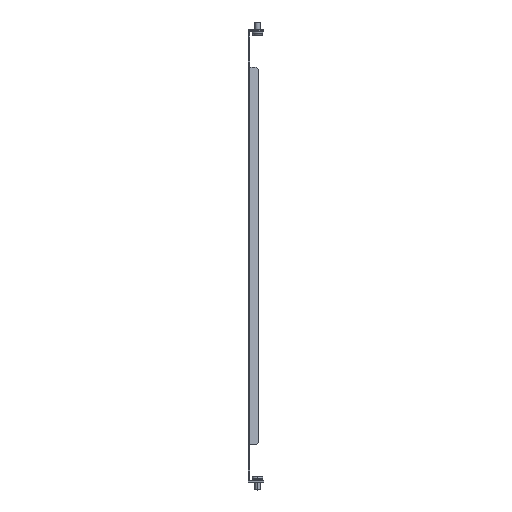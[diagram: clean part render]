
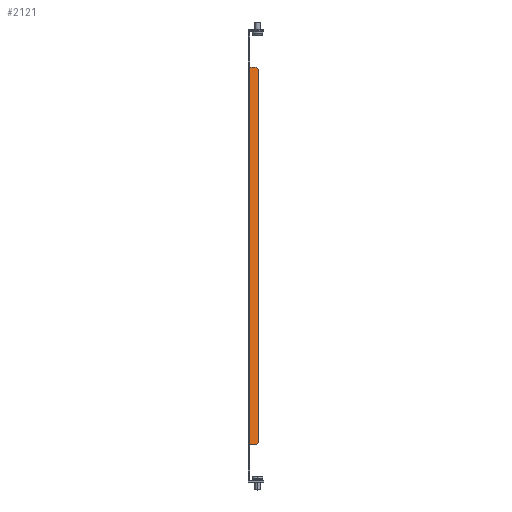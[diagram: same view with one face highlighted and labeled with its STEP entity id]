
A CAD part, top view. The second image highlights one B-rep face of the part: STEP entity #2121.
In plain terms, the highlighted planar face has unit normal (0.5, 0, 0.866).
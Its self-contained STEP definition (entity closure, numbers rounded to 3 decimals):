
#56 = VERTEX_POINT ( 'NONE', #10723 ) ;
#228 = ORIENTED_EDGE ( 'NONE', *, *, #6264, .F. ) ;
#251 = VERTEX_POINT ( 'NONE', #10399 ) ;
#266 = LINE ( 'NONE', #4899, #1419 ) ;
#288 = LINE ( 'NONE', #6215, #9762 ) ;
#335 = DIRECTION ( 'NONE',  ( -0.612, 0.707, 0.354 ) ) ;
#374 = CARTESIAN_POINT ( 'NONE',  ( 1.268, 0., 149.464 ) ) ;
#507 = DIRECTION ( 'NONE',  ( 0.612, 0.707, -0.354 ) ) ;
#849 = ORIENTED_EDGE ( 'NONE', *, *, #7235, .T. ) ;
#1419 = VECTOR ( 'NONE', #2614, 1000. ) ;
#1678 = DIRECTION ( 'NONE',  ( -0.866, 0., 0.5 ) ) ;
#2012 = CARTESIAN_POINT ( 'NONE',  ( 2.25, -210.75, 148.897 ) ) ;
#2015 = VERTEX_POINT ( 'NONE', #11507 ) ;
#2121 = ADVANCED_FACE ( 'NONE', ( #6395 ), #14421, .F. ) ;
#2420 = VECTOR ( 'NONE', #2836, 1000. ) ;
#2614 = DIRECTION ( 'NONE',  ( 0.866, 0., -0.5 ) ) ;
#2637 = VERTEX_POINT ( 'NONE', #4084 ) ;
#2768 = CARTESIAN_POINT ( 'NONE',  ( 63.912, -210.75, 113.297 ) ) ;
#2836 = DIRECTION ( 'NONE',  ( -0.866, 0., 0.5 ) ) ;
#2980 = LINE ( 'NONE', #14655, #10362 ) ;
#3723 = EDGE_CURVE ( 'NONE', #9252, #2015, #2980, .T. ) ;
#3890 = ORIENTED_EDGE ( 'NONE', *, *, #9575, .T. ) ;
#4084 = CARTESIAN_POINT ( 'NONE',  ( 11.401, -207.75, 143.614 ) ) ;
#4442 = LINE ( 'NONE', #2012, #8089 ) ;
#4509 = DIRECTION ( 'NONE',  ( -0.866, 0., 0.5 ) ) ;
#4899 = CARTESIAN_POINT ( 'NONE',  ( 11.401, 210.75, 143.614 ) ) ;
#4963 = LINE ( 'NONE', #12127, #12664 ) ;
#5005 = EDGE_CURVE ( 'NONE', #2015, #5898, #14411, .T. ) ;
#5573 = ORIENTED_EDGE ( 'NONE', *, *, #12654, .F. ) ;
#5576 = VECTOR ( 'NONE', #7458, 1000. ) ;
#5803 = CARTESIAN_POINT ( 'NONE',  ( 11.401, 207.75, 143.614 ) ) ;
#5898 = VERTEX_POINT ( 'NONE', #11235 ) ;
#6215 = CARTESIAN_POINT ( 'NONE',  ( 11.401, -207.75, 143.614 ) ) ;
#6264 = EDGE_CURVE ( 'NONE', #9252, #56, #266, .T. ) ;
#6395 = FACE_OUTER_BOUND ( 'NONE', #7047, .T. ) ;
#7047 = EDGE_LOOP ( 'NONE', ( #10175, #11760, #5573, #13548, #849, #14748, #3890, #228 ) ) ;
#7235 = EDGE_CURVE ( 'NONE', #13224, #2637, #288, .T. ) ;
#7458 = DIRECTION ( 'NONE',  ( 0., -1., 0. ) ) ;
#7591 = EDGE_CURVE ( 'NONE', #13224, #251, #4442, .T. ) ;
#8089 = VECTOR ( 'NONE', #4509, 1000. ) ;
#8536 = DIRECTION ( 'NONE',  ( -0.5, 0., -0.866 ) ) ;
#8635 = LINE ( 'NONE', #2768, #2420 ) ;
#8712 = AXIS2_PLACEMENT_3D ( 'NONE', #12107, #8536, #10886 ) ;
#8780 = DIRECTION ( 'NONE',  ( 0., -1., 0. ) ) ;
#9252 = VERTEX_POINT ( 'NONE', #11228 ) ;
#9575 = EDGE_CURVE ( 'NONE', #10389, #56, #9907, .T. ) ;
#9599 = EDGE_CURVE ( 'NONE', #10389, #2637, #4963, .T. ) ;
#9762 = VECTOR ( 'NONE', #507, 1000. ) ;
#9907 = LINE ( 'NONE', #10903, #13402 ) ;
#10175 = ORIENTED_EDGE ( 'NONE', *, *, #3723, .T. ) ;
#10362 = VECTOR ( 'NONE', #1678, 1000. ) ;
#10389 = VERTEX_POINT ( 'NONE', #5803 ) ;
#10399 = CARTESIAN_POINT ( 'NONE',  ( 4.5, -210.75, 147.598 ) ) ;
#10501 = CARTESIAN_POINT ( 'NONE',  ( 8.803, -210.75, 145.114 ) ) ;
#10723 = CARTESIAN_POINT ( 'NONE',  ( 8.803, 210.75, 145.114 ) ) ;
#10886 = DIRECTION ( 'NONE',  ( -0.866, 0., 0.5 ) ) ;
#10903 = CARTESIAN_POINT ( 'NONE',  ( 8.803, 210.75, 145.114 ) ) ;
#11228 = CARTESIAN_POINT ( 'NONE',  ( 4.5, 210.75, 147.598 ) ) ;
#11235 = CARTESIAN_POINT ( 'NONE',  ( 1.268, -210.75, 149.464 ) ) ;
#11507 = CARTESIAN_POINT ( 'NONE',  ( 1.268, 210.75, 149.464 ) ) ;
#11760 = ORIENTED_EDGE ( 'NONE', *, *, #5005, .T. ) ;
#12107 = CARTESIAN_POINT ( 'NONE',  ( 63.912, 0., 113.297 ) ) ;
#12127 = CARTESIAN_POINT ( 'NONE',  ( 11.401, -210.75, 143.614 ) ) ;
#12654 = EDGE_CURVE ( 'NONE', #251, #5898, #8635, .T. ) ;
#12664 = VECTOR ( 'NONE', #8780, 1000. ) ;
#13224 = VERTEX_POINT ( 'NONE', #10501 ) ;
#13402 = VECTOR ( 'NONE', #335, 1000. ) ;
#13548 = ORIENTED_EDGE ( 'NONE', *, *, #7591, .F. ) ;
#14411 = LINE ( 'NONE', #374, #5576 ) ;
#14421 = PLANE ( 'NONE',  #8712 ) ;
#14655 = CARTESIAN_POINT ( 'NONE',  ( 4.5, 210.75, 147.598 ) ) ;
#14748 = ORIENTED_EDGE ( 'NONE', *, *, #9599, .F. ) ;
